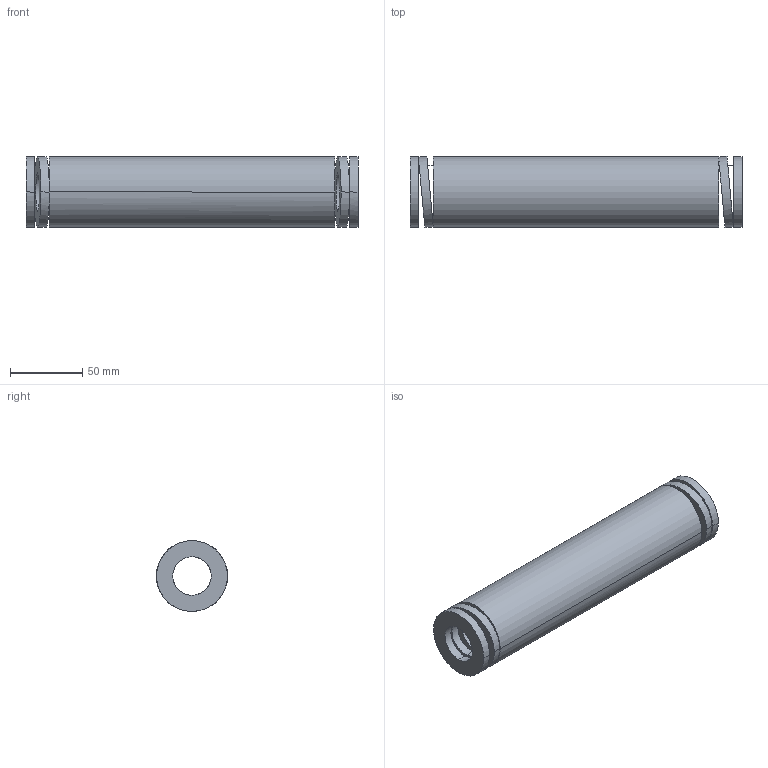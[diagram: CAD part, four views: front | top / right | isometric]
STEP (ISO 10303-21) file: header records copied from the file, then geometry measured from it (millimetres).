
FILE_DESCRIPTION(('CATIA V5 STEP Exchange'),'2;1');
FILE_NAME('C:\Users\Utente\Desktop\IO LAVORO\3D X SITO CF\X SITO\3D files 392B\392-B50-229.stp','2021-08-13T11:24:40+00:00',('none'),('none'),'CATIA Version 5 Release 20 GA (IN-10)','CATIA V5 STEP AP203','none');
FILE_SCHEMA(('CONFIG_CONTROL_DESIGN'));
Length unit declared in the file: millimetre
Products named in the file (1): 392-B50-229
Bounding box: 229 x 49.12 x 48.8 mm (x, y, z)
Volume: 289061.5 mm3; surface area: 65234.8 mm2
Topology: 1 solids, 1 shells, 38 faces, 92 edges, 64 vertices
Faces by surface type: cylinder 28, plane 10
Entity records: 1626 total; most frequent: CARTESIAN_POINT 747, ORIENTED_EDGE 184, DIRECTION 124, EDGE_CURVE 92, VERTEX_POINT 64, AXIS2_PLACEMENT_3D 59, EDGE_LOOP 56, B_SPLINE_CURVE_WITH_KNOTS 44
